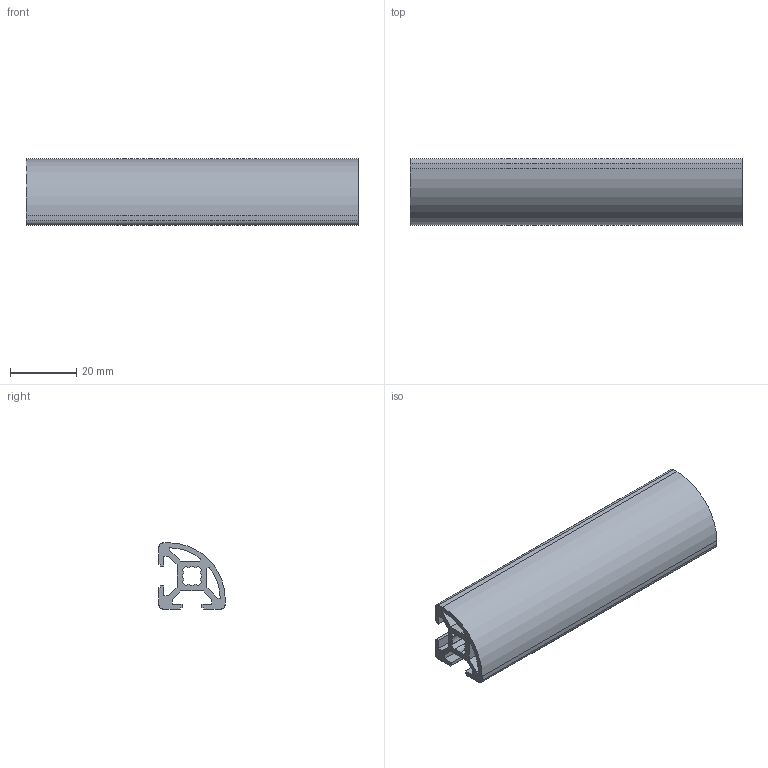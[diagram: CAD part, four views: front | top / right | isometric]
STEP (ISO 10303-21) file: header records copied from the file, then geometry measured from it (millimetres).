
FILE_DESCRIPTION(('no description'),'unknown implementation level');
FILE_NAME('3842992890_104024806.stp',' ',('Bosch Rexroth AG'),('CADClick - KiM GmbH - www.kimweb.de'),'unknown preprocess','ACIS','unknown authorization');
FILE_SCHEMA(('automotive_design'));
Length unit declared in the file: millimetre
Products named in the file (1): 1
Bounding box: 100 x 20 x 20 mm (x, y, z)
Volume: 16266.2 mm3; surface area: 18144.9 mm2
Topology: 1 solids, 1 shells, 64 faces, 186 edges, 124 vertices
Faces by surface type: plane 54, cylinder 10
Entity records: 4188 total; most frequent: STYLED_ITEM 375, PRESENTATION_STYLE_ASSIGNMENT 375, CARTESIAN_POINT 375, COLOUR_RGB 375, ORIENTED_EDGE 372, DIRECTION 336, EDGE_CURVE 186, CURVE_STYLE 186
